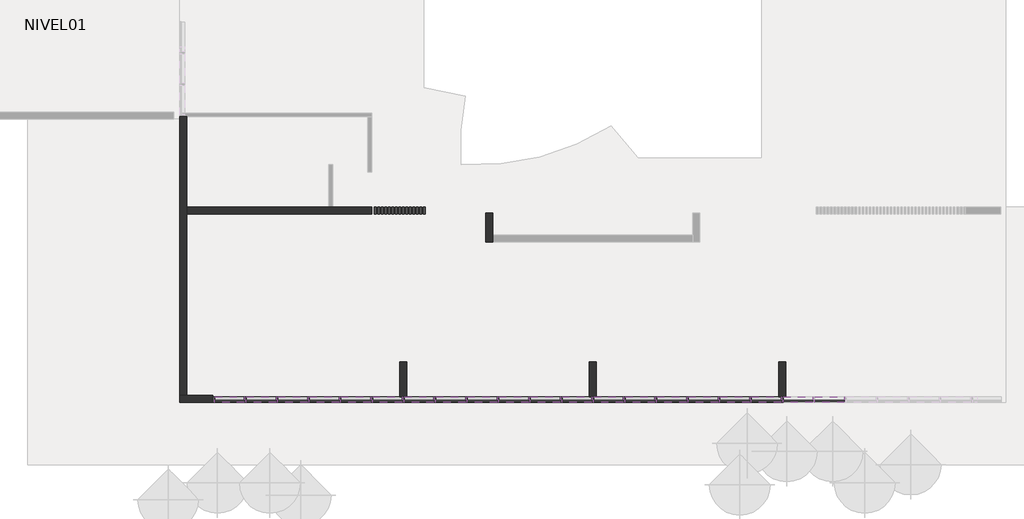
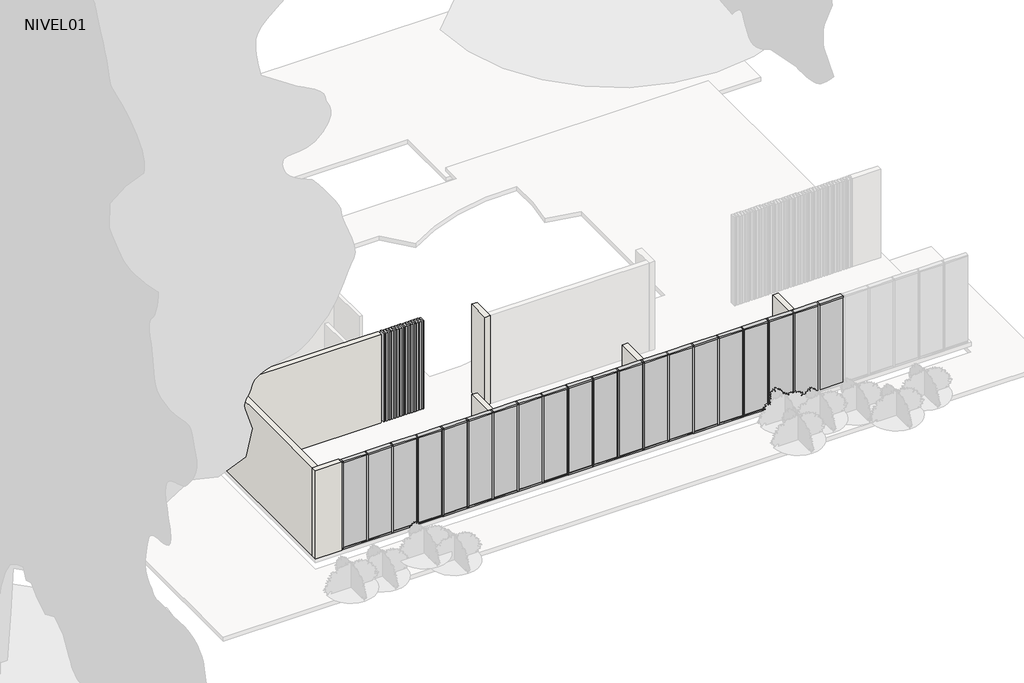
# One storey, part 1 of 4: 73 members, 20 plates, 7 walls.
"""IFC4 building model written with IfcOpenShell, lengths in millimetres."""

from ifc_helpers import new_model, si_unit, frame, origin, place, context, project, spatial, polyline, outline, extrude, faceted_brep, transform, mapped, element, save
from components import rectangular_mullion_50_x_150mm_aa6e6970, rectangular_mullion_50_x_150mm_f2553ced, rectangular_mullion_50_x_150mm_324a6438, rectangular_mullion_madera_50_x_200mm_c4610814, system_panel_glazed_22d07e78

model = new_model("IFC4")

# Units and contexts
model_context = context("Model", 3, world=origin())
ifc_project = project(units=[si_unit("LENGTHUNIT", "METRE", prefix="MILLI")], contexts=[model_context])

# Site, building, storey
site = spatial("IfcSite", under=ifc_project)
building = spatial("IfcBuilding", under=site)
storey = spatial("IfcBuildingStorey", under=building, Name="NIVEL01", Elevation=-1000.0)

# Members
placement = place(None, origin())
rectangular_mullion_50_x_150mm_shape = rectangular_mullion_50_x_150mm_aa6e6970(model_context)
element("IfcMember", 1, ObjectType="Rectangular Mullion : 50 x 150mm", at=placement, inside=storey, context=model_context, shape_type="MappedRepresentation", body=[
    mapped(rectangular_mullion_50_x_150mm_shape, transform((-1783.5934752, -5665.5860763, -1000.0), x_axis=(-1.0, 0.0, 0.0), y_axis=(0.0, 1.0, 0.0), z_axis=(0.0, 0.0, -1.0))),
])
element("IfcMember", 2, ObjectType="Rectangular Mullion : 50 x 150mm", at=placement, inside=storey, context=model_context, shape_type="MappedRepresentation", body=[
    mapped(rectangular_mullion_50_x_150mm_shape, transform((-2683.5934752, -5665.5860763, -1000.0), x_axis=(-1.0, 0.0, 0.0), y_axis=(0.0, 1.0, 0.0), z_axis=(0.0, 0.0, -1.0))),
])
element("IfcMember", 3, ObjectType="Rectangular Mullion : 50 x 150mm", at=placement, inside=storey, context=model_context, shape_type="MappedRepresentation", body=[
    mapped(rectangular_mullion_50_x_150mm_shape, transform((-3583.5934752, -5665.5860763, -1000.0), x_axis=(-1.0, 0.0, 0.0), y_axis=(0.0, 1.0, 0.0), z_axis=(0.0, 0.0, -1.0))),
])
element("IfcMember", 4, ObjectType="Rectangular Mullion : 50 x 150mm", at=placement, inside=storey, context=model_context, shape_type="MappedRepresentation", body=[
    mapped(rectangular_mullion_50_x_150mm_shape, transform((-4483.5934752, -5665.5860763, -1000.0), x_axis=(-1.0, 0.0, 0.0), y_axis=(0.0, 1.0, 0.0), z_axis=(0.0, 0.0, -1.0))),
])
element("IfcMember", 5, ObjectType="Rectangular Mullion : 50 x 150mm", at=placement, inside=storey, context=model_context, shape_type="MappedRepresentation", body=[
    mapped(rectangular_mullion_50_x_150mm_shape, transform((-5383.5934752, -5665.5860763, -1000.0), x_axis=(-1.0, 0.0, 0.0), y_axis=(0.0, 1.0, 0.0), z_axis=(0.0, 0.0, -1.0))),
])
element("IfcMember", 6, ObjectType="Rectangular Mullion : 50 x 150mm", at=placement, inside=storey, context=model_context, shape_type="MappedRepresentation", body=[
    mapped(rectangular_mullion_50_x_150mm_shape, transform((-6283.5934752, -5665.5860763, -1000.0), x_axis=(-1.0, 0.0, 0.0), y_axis=(0.0, 1.0, 0.0), z_axis=(0.0, 0.0, -1.0))),
])
element("IfcMember", 7, ObjectType="Rectangular Mullion : 50 x 150mm", at=placement, inside=storey, context=model_context, shape_type="MappedRepresentation", body=[
    mapped(rectangular_mullion_50_x_150mm_shape, transform((-7183.5934752, -5665.5860763, -1000.0), x_axis=(-1.0, 0.0, 0.0), y_axis=(0.0, 1.0, 0.0), z_axis=(0.0, 0.0, -1.0))),
])
element("IfcMember", 8, ObjectType="Rectangular Mullion : 50 x 150mm", at=placement, inside=storey, context=model_context, shape_type="MappedRepresentation", body=[
    mapped(rectangular_mullion_50_x_150mm_shape, transform((-8083.5934752, -5665.5860763, -1000.0), x_axis=(-1.0, 0.0, 0.0), y_axis=(0.0, 1.0, 0.0), z_axis=(0.0, 0.0, -1.0))),
])
element("IfcMember", 9, ObjectType="Rectangular Mullion : 50 x 150mm", at=placement, inside=storey, context=model_context, shape_type="MappedRepresentation", body=[
    mapped(rectangular_mullion_50_x_150mm_shape, transform((-8983.5934752, -5665.5860763, -1000.0), x_axis=(-1.0, 0.0, 0.0), y_axis=(0.0, 1.0, 0.0), z_axis=(0.0, 0.0, -1.0))),
])
element("IfcMember", 10, ObjectType="Rectangular Mullion : 50 x 150mm", at=placement, inside=storey, context=model_context, shape_type="MappedRepresentation", body=[
    mapped(rectangular_mullion_50_x_150mm_shape, transform((-9883.5934752, -5665.5860763, -1000.0), x_axis=(-1.0, 0.0, 0.0), y_axis=(0.0, 1.0, 0.0), z_axis=(0.0, 0.0, -1.0))),
])
element("IfcMember", 11, ObjectType="Rectangular Mullion : 50 x 150mm", at=placement, inside=storey, context=model_context, shape_type="MappedRepresentation", body=[
    mapped(rectangular_mullion_50_x_150mm_shape, transform((-10783.5934752, -5665.5860763, -1000.0), x_axis=(-1.0, 0.0, 0.0), y_axis=(0.0, 1.0, 0.0), z_axis=(0.0, 0.0, -1.0))),
])
element("IfcMember", 12, ObjectType="Rectangular Mullion : 50 x 150mm", at=placement, inside=storey, context=model_context, shape_type="MappedRepresentation", body=[
    mapped(rectangular_mullion_50_x_150mm_shape, transform((-11683.5934752, -5665.5860763, -1000.0), x_axis=(-1.0, 0.0, 0.0), y_axis=(0.0, 1.0, 0.0), z_axis=(0.0, 0.0, -1.0))),
])
element("IfcMember", 13, ObjectType="Rectangular Mullion : 50 x 150mm", at=placement, inside=storey, context=model_context, shape_type="MappedRepresentation", body=[
    mapped(rectangular_mullion_50_x_150mm_shape, transform((-12583.5934752, -5665.5860763, -1000.0), x_axis=(-1.0, 0.0, 0.0), y_axis=(0.0, 1.0, 0.0), z_axis=(0.0, 0.0, -1.0))),
])
element("IfcMember", 14, ObjectType="Rectangular Mullion : 50 x 150mm", at=placement, inside=storey, context=model_context, shape_type="MappedRepresentation", body=[
    mapped(rectangular_mullion_50_x_150mm_shape, transform((-13483.5934752, -5665.5860763, -1000.0), x_axis=(-1.0, 0.0, 0.0), y_axis=(0.0, 1.0, 0.0), z_axis=(0.0, 0.0, -1.0))),
])
element("IfcMember", 15, ObjectType="Rectangular Mullion : 50 x 150mm", at=placement, inside=storey, context=model_context, shape_type="MappedRepresentation", body=[
    mapped(rectangular_mullion_50_x_150mm_shape, transform((-14383.5934752, -5665.5860763, -1000.0), x_axis=(-1.0, 0.0, 0.0), y_axis=(0.0, 1.0, 0.0), z_axis=(0.0, 0.0, -1.0))),
])
element("IfcMember", 16, ObjectType="Rectangular Mullion : 50 x 150mm", at=placement, inside=storey, context=model_context, shape_type="MappedRepresentation", body=[
    mapped(rectangular_mullion_50_x_150mm_shape, transform((-15283.5934752, -5665.5860763, -1000.0), x_axis=(-1.0, 0.0, 0.0), y_axis=(0.0, 1.0, 0.0), z_axis=(0.0, 0.0, -1.0))),
])
element("IfcMember", 17, ObjectType="Rectangular Mullion : 50 x 150mm", at=placement, inside=storey, context=model_context, shape_type="MappedRepresentation", body=[
    mapped(rectangular_mullion_50_x_150mm_shape, transform((-16183.5934752, -5665.5860763, -1000.0), x_axis=(-1.0, 0.0, 0.0), y_axis=(0.0, 1.0, 0.0), z_axis=(0.0, 0.0, -1.0))),
])
element("IfcMember", 18, ObjectType="Rectangular Mullion : 50 x 150mm", at=placement, inside=storey, context=model_context, shape_type="MappedRepresentation", body=[
    mapped(rectangular_mullion_50_x_150mm_shape, transform((-17083.5934752, -5665.5860763, -1000.0), x_axis=(-1.0, 0.0, 0.0), y_axis=(0.0, 1.0, 0.0), z_axis=(0.0, 0.0, -1.0))),
])
element("IfcMember", 19, ObjectType="Rectangular Mullion : 50 x 150mm", at=placement, inside=storey, context=model_context, shape_type="MappedRepresentation", body=[
    mapped(rectangular_mullion_50_x_150mm_shape, transform((-17983.5934752, -5665.5860763, -1000.0), x_axis=(-1.0, 0.0, 0.0), y_axis=(0.0, 1.0, 0.0), z_axis=(0.0, 0.0, -1.0))),
])
rectangular_mullion_50_x_150mm_2_shape = rectangular_mullion_50_x_150mm_f2553ced(model_context)
element("IfcMember", 20, ObjectType="Rectangular Mullion : 50 x 150mm", at=placement, inside=storey, context=model_context, shape_type="MappedRepresentation", body=[
    mapped(rectangular_mullion_50_x_150mm_2_shape, transform((-18008.5934748, -5665.5860763, -1000.0), x_axis=(-1.0, 0.0, 0.0), y_axis=(0.0, 1.0, 0.0), z_axis=(0.0, 0.0, -1.0))),
])
rectangular_mullion_50_x_150mm_3_shape = rectangular_mullion_50_x_150mm_324a6438(model_context)
element("IfcMember", 21, ObjectType="Rectangular Mullion : 50 x 150mm", at=placement, inside=storey, context=model_context, shape_type="MappedRepresentation", body=[
    mapped(rectangular_mullion_50_x_150mm_3_shape, transform((-858.5934752, -5665.5860763, 2330.0), x_axis=(0.0, 0.0, 1.0), y_axis=(0.0, 1.0, 0.0), z_axis=(-1.0, 0.0, 0.0))),
])
element("IfcMember", 22, ObjectType="Rectangular Mullion : 50 x 150mm", at=placement, inside=storey, context=model_context, shape_type="MappedRepresentation", body=[
    mapped(rectangular_mullion_50_x_150mm_3_shape, transform((-1758.5934752, -5665.5860763, 2330.0), x_axis=(0.0, 0.0, 1.0), y_axis=(0.0, 1.0, 0.0), z_axis=(-1.0, 0.0, 0.0))),
])
element("IfcMember", 23, ObjectType="Rectangular Mullion : 50 x 150mm", at=placement, inside=storey, context=model_context, shape_type="MappedRepresentation", body=[
    mapped(rectangular_mullion_50_x_150mm_3_shape, transform((-2658.5934752, -5665.5860763, 2330.0), x_axis=(0.0, 0.0, 1.0), y_axis=(0.0, 1.0, 0.0), z_axis=(-1.0, 0.0, 0.0))),
])
element("IfcMember", 24, ObjectType="Rectangular Mullion : 50 x 150mm", at=placement, inside=storey, context=model_context, shape_type="MappedRepresentation", body=[
    mapped(rectangular_mullion_50_x_150mm_3_shape, transform((-3558.5934752, -5665.5860763, 2330.0), x_axis=(0.0, 0.0, 1.0), y_axis=(0.0, 1.0, 0.0), z_axis=(-1.0, 0.0, 0.0))),
])
element("IfcMember", 25, ObjectType="Rectangular Mullion : 50 x 150mm", at=placement, inside=storey, context=model_context, shape_type="MappedRepresentation", body=[
    mapped(rectangular_mullion_50_x_150mm_3_shape, transform((-4458.5934752, -5665.5860763, 2330.0), x_axis=(0.0, 0.0, 1.0), y_axis=(0.0, 1.0, 0.0), z_axis=(-1.0, 0.0, 0.0))),
])
element("IfcMember", 26, ObjectType="Rectangular Mullion : 50 x 150mm", at=placement, inside=storey, context=model_context, shape_type="MappedRepresentation", body=[
    mapped(rectangular_mullion_50_x_150mm_3_shape, transform((-5358.5934752, -5665.5860763, 2330.0), x_axis=(0.0, 0.0, 1.0), y_axis=(0.0, 1.0, 0.0), z_axis=(-1.0, 0.0, 0.0))),
])
element("IfcMember", 27, ObjectType="Rectangular Mullion : 50 x 150mm", at=placement, inside=storey, context=model_context, shape_type="MappedRepresentation", body=[
    mapped(rectangular_mullion_50_x_150mm_3_shape, transform((-6258.5934752, -5665.5860763, 2330.0), x_axis=(0.0, 0.0, 1.0), y_axis=(0.0, 1.0, 0.0), z_axis=(-1.0, 0.0, 0.0))),
])
element("IfcMember", 28, ObjectType="Rectangular Mullion : 50 x 150mm", at=placement, inside=storey, context=model_context, shape_type="MappedRepresentation", body=[
    mapped(rectangular_mullion_50_x_150mm_3_shape, transform((-7158.5934752, -5665.5860763, 2330.0), x_axis=(0.0, 0.0, 1.0), y_axis=(0.0, 1.0, 0.0), z_axis=(-1.0, 0.0, 0.0))),
])
element("IfcMember", 29, ObjectType="Rectangular Mullion : 50 x 150mm", at=placement, inside=storey, context=model_context, shape_type="MappedRepresentation", body=[
    mapped(rectangular_mullion_50_x_150mm_3_shape, transform((-8058.5934752, -5665.5860763, 2330.0), x_axis=(0.0, 0.0, 1.0), y_axis=(0.0, 1.0, 0.0), z_axis=(-1.0, 0.0, 0.0))),
])
element("IfcMember", 30, ObjectType="Rectangular Mullion : 50 x 150mm", at=placement, inside=storey, context=model_context, shape_type="MappedRepresentation", body=[
    mapped(rectangular_mullion_50_x_150mm_3_shape, transform((-8958.5934752, -5665.5860763, 2330.0), x_axis=(0.0, 0.0, 1.0), y_axis=(0.0, 1.0, 0.0), z_axis=(-1.0, 0.0, 0.0))),
])
element("IfcMember", 31, ObjectType="Rectangular Mullion : 50 x 150mm", at=placement, inside=storey, context=model_context, shape_type="MappedRepresentation", body=[
    mapped(rectangular_mullion_50_x_150mm_3_shape, transform((-9858.5934752, -5665.5860763, 2330.0), x_axis=(0.0, 0.0, 1.0), y_axis=(0.0, 1.0, 0.0), z_axis=(-1.0, 0.0, 0.0))),
])
element("IfcMember", 32, ObjectType="Rectangular Mullion : 50 x 150mm", at=placement, inside=storey, context=model_context, shape_type="MappedRepresentation", body=[
    mapped(rectangular_mullion_50_x_150mm_3_shape, transform((-10758.5934752, -5665.5860763, 2330.0), x_axis=(0.0, 0.0, 1.0), y_axis=(0.0, 1.0, 0.0), z_axis=(-1.0, 0.0, 0.0))),
])
element("IfcMember", 33, ObjectType="Rectangular Mullion : 50 x 150mm", at=placement, inside=storey, context=model_context, shape_type="MappedRepresentation", body=[
    mapped(rectangular_mullion_50_x_150mm_3_shape, transform((-11658.5934752, -5665.5860763, 2330.0), x_axis=(0.0, 0.0, 1.0), y_axis=(0.0, 1.0, 0.0), z_axis=(-1.0, 0.0, 0.0))),
])
element("IfcMember", 34, ObjectType="Rectangular Mullion : 50 x 150mm", at=placement, inside=storey, context=model_context, shape_type="MappedRepresentation", body=[
    mapped(rectangular_mullion_50_x_150mm_3_shape, transform((-12558.5934752, -5665.5860763, 2330.0), x_axis=(0.0, 0.0, 1.0), y_axis=(0.0, 1.0, 0.0), z_axis=(-1.0, 0.0, 0.0))),
])
element("IfcMember", 35, ObjectType="Rectangular Mullion : 50 x 150mm", at=placement, inside=storey, context=model_context, shape_type="MappedRepresentation", body=[
    mapped(rectangular_mullion_50_x_150mm_3_shape, transform((-13458.5934752, -5665.5860763, 2330.0), x_axis=(0.0, 0.0, 1.0), y_axis=(0.0, 1.0, 0.0), z_axis=(-1.0, 0.0, 0.0))),
])
element("IfcMember", 36, ObjectType="Rectangular Mullion : 50 x 150mm", at=placement, inside=storey, context=model_context, shape_type="MappedRepresentation", body=[
    mapped(rectangular_mullion_50_x_150mm_3_shape, transform((-14358.5934752, -5665.5860763, 2330.0), x_axis=(0.0, 0.0, 1.0), y_axis=(0.0, 1.0, 0.0), z_axis=(-1.0, 0.0, 0.0))),
])
element("IfcMember", 37, ObjectType="Rectangular Mullion : 50 x 150mm", at=placement, inside=storey, context=model_context, shape_type="MappedRepresentation", body=[
    mapped(rectangular_mullion_50_x_150mm_3_shape, transform((-15258.5934752, -5665.5860763, 2330.0), x_axis=(0.0, 0.0, 1.0), y_axis=(0.0, 1.0, 0.0), z_axis=(-1.0, 0.0, 0.0))),
])
element("IfcMember", 38, ObjectType="Rectangular Mullion : 50 x 150mm", at=placement, inside=storey, context=model_context, shape_type="MappedRepresentation", body=[
    mapped(rectangular_mullion_50_x_150mm_3_shape, transform((-16158.5934752, -5665.5860763, 2330.0), x_axis=(0.0, 0.0, 1.0), y_axis=(0.0, 1.0, 0.0), z_axis=(-1.0, 0.0, 0.0))),
])
element("IfcMember", 39, ObjectType="Rectangular Mullion : 50 x 150mm", at=placement, inside=storey, context=model_context, shape_type="MappedRepresentation", body=[
    mapped(rectangular_mullion_50_x_150mm_3_shape, transform((-17058.5934752, -5665.5860763, 2330.0), x_axis=(0.0, 0.0, 1.0), y_axis=(0.0, 1.0, 0.0), z_axis=(-1.0, 0.0, 0.0))),
])
element("IfcMember", 40, ObjectType="Rectangular Mullion : 50 x 150mm", at=placement, inside=storey, context=model_context, shape_type="MappedRepresentation", body=[
    mapped(rectangular_mullion_50_x_150mm_3_shape, transform((-17958.5934752, -5665.5860763, 2330.0), x_axis=(0.0, 0.0, 1.0), y_axis=(0.0, 1.0, 0.0), z_axis=(-1.0, 0.0, 0.0))),
])
element("IfcMember", 41, ObjectType="Rectangular Mullion : 50 x 150mm", at=placement, inside=storey, context=model_context, shape_type="MappedRepresentation", body=[
    mapped(rectangular_mullion_50_x_150mm_3_shape, transform((-1808.5934752, -5665.5860763, -1000.0), x_axis=(0.0, 0.0, -1.0), y_axis=(0.0, 1.0, 0.0), z_axis=(1.0, 0.0, 0.0))),
])
element("IfcMember", 42, ObjectType="Rectangular Mullion : 50 x 150mm", at=placement, inside=storey, context=model_context, shape_type="MappedRepresentation", body=[
    mapped(rectangular_mullion_50_x_150mm_3_shape, transform((-2708.5934752, -5665.5860763, -1000.0), x_axis=(0.0, 0.0, -1.0), y_axis=(0.0, 1.0, 0.0), z_axis=(1.0, 0.0, 0.0))),
])
element("IfcMember", 43, ObjectType="Rectangular Mullion : 50 x 150mm", at=placement, inside=storey, context=model_context, shape_type="MappedRepresentation", body=[
    mapped(rectangular_mullion_50_x_150mm_3_shape, transform((-3608.5934752, -5665.5860763, -1000.0), x_axis=(0.0, 0.0, -1.0), y_axis=(0.0, 1.0, 0.0), z_axis=(1.0, 0.0, 0.0))),
])
element("IfcMember", 44, ObjectType="Rectangular Mullion : 50 x 150mm", at=placement, inside=storey, context=model_context, shape_type="MappedRepresentation", body=[
    mapped(rectangular_mullion_50_x_150mm_3_shape, transform((-4508.5934752, -5665.5860763, -1000.0), x_axis=(0.0, 0.0, -1.0), y_axis=(0.0, 1.0, 0.0), z_axis=(1.0, 0.0, 0.0))),
])
element("IfcMember", 45, ObjectType="Rectangular Mullion : 50 x 150mm", at=placement, inside=storey, context=model_context, shape_type="MappedRepresentation", body=[
    mapped(rectangular_mullion_50_x_150mm_3_shape, transform((-5408.5934752, -5665.5860763, -1000.0), x_axis=(0.0, 0.0, -1.0), y_axis=(0.0, 1.0, 0.0), z_axis=(1.0, 0.0, 0.0))),
])
element("IfcMember", 46, ObjectType="Rectangular Mullion : 50 x 150mm", at=placement, inside=storey, context=model_context, shape_type="MappedRepresentation", body=[
    mapped(rectangular_mullion_50_x_150mm_3_shape, transform((-6308.5934752, -5665.5860763, -1000.0), x_axis=(0.0, 0.0, -1.0), y_axis=(0.0, 1.0, 0.0), z_axis=(1.0, 0.0, 0.0))),
])
element("IfcMember", 47, ObjectType="Rectangular Mullion : 50 x 150mm", at=placement, inside=storey, context=model_context, shape_type="MappedRepresentation", body=[
    mapped(rectangular_mullion_50_x_150mm_3_shape, transform((-7208.5934752, -5665.5860763, -1000.0), x_axis=(0.0, 0.0, -1.0), y_axis=(0.0, 1.0, 0.0), z_axis=(1.0, 0.0, 0.0))),
])
element("IfcMember", 48, ObjectType="Rectangular Mullion : 50 x 150mm", at=placement, inside=storey, context=model_context, shape_type="MappedRepresentation", body=[
    mapped(rectangular_mullion_50_x_150mm_3_shape, transform((-8108.5934752, -5665.5860763, -1000.0), x_axis=(0.0, 0.0, -1.0), y_axis=(0.0, 1.0, 0.0), z_axis=(1.0, 0.0, 0.0))),
])
element("IfcMember", 49, ObjectType="Rectangular Mullion : 50 x 150mm", at=placement, inside=storey, context=model_context, shape_type="MappedRepresentation", body=[
    mapped(rectangular_mullion_50_x_150mm_3_shape, transform((-9008.5934752, -5665.5860763, -1000.0), x_axis=(0.0, 0.0, -1.0), y_axis=(0.0, 1.0, 0.0), z_axis=(1.0, 0.0, 0.0))),
])
element("IfcMember", 50, ObjectType="Rectangular Mullion : 50 x 150mm", at=placement, inside=storey, context=model_context, shape_type="MappedRepresentation", body=[
    mapped(rectangular_mullion_50_x_150mm_3_shape, transform((-9908.5934752, -5665.5860763, -1000.0), x_axis=(0.0, 0.0, -1.0), y_axis=(0.0, 1.0, 0.0), z_axis=(1.0, 0.0, 0.0))),
])
element("IfcMember", 51, ObjectType="Rectangular Mullion : 50 x 150mm", at=placement, inside=storey, context=model_context, shape_type="MappedRepresentation", body=[
    mapped(rectangular_mullion_50_x_150mm_3_shape, transform((-10808.5934752, -5665.5860763, -1000.0), x_axis=(0.0, 0.0, -1.0), y_axis=(0.0, 1.0, 0.0), z_axis=(1.0, 0.0, 0.0))),
])
element("IfcMember", 52, ObjectType="Rectangular Mullion : 50 x 150mm", at=placement, inside=storey, context=model_context, shape_type="MappedRepresentation", body=[
    mapped(rectangular_mullion_50_x_150mm_3_shape, transform((-11708.5934752, -5665.5860763, -1000.0), x_axis=(0.0, 0.0, -1.0), y_axis=(0.0, 1.0, 0.0), z_axis=(1.0, 0.0, 0.0))),
])
element("IfcMember", 53, ObjectType="Rectangular Mullion : 50 x 150mm", at=placement, inside=storey, context=model_context, shape_type="MappedRepresentation", body=[
    mapped(rectangular_mullion_50_x_150mm_3_shape, transform((-12608.5934752, -5665.5860763, -1000.0), x_axis=(0.0, 0.0, -1.0), y_axis=(0.0, 1.0, 0.0), z_axis=(1.0, 0.0, 0.0))),
])
element("IfcMember", 54, ObjectType="Rectangular Mullion : 50 x 150mm", at=placement, inside=storey, context=model_context, shape_type="MappedRepresentation", body=[
    mapped(rectangular_mullion_50_x_150mm_3_shape, transform((-13508.5934752, -5665.5860763, -1000.0), x_axis=(0.0, 0.0, -1.0), y_axis=(0.0, 1.0, 0.0), z_axis=(1.0, 0.0, 0.0))),
])
element("IfcMember", 55, ObjectType="Rectangular Mullion : 50 x 150mm", at=placement, inside=storey, context=model_context, shape_type="MappedRepresentation", body=[
    mapped(rectangular_mullion_50_x_150mm_3_shape, transform((-14408.5934752, -5665.5860763, -1000.0), x_axis=(0.0, 0.0, -1.0), y_axis=(0.0, 1.0, 0.0), z_axis=(1.0, 0.0, 0.0))),
])
element("IfcMember", 56, ObjectType="Rectangular Mullion : 50 x 150mm", at=placement, inside=storey, context=model_context, shape_type="MappedRepresentation", body=[
    mapped(rectangular_mullion_50_x_150mm_3_shape, transform((-15308.5934752, -5665.5860763, -1000.0), x_axis=(0.0, 0.0, -1.0), y_axis=(0.0, 1.0, 0.0), z_axis=(1.0, 0.0, 0.0))),
])
element("IfcMember", 57, ObjectType="Rectangular Mullion : 50 x 150mm", at=placement, inside=storey, context=model_context, shape_type="MappedRepresentation", body=[
    mapped(rectangular_mullion_50_x_150mm_3_shape, transform((-16208.5934752, -5665.5860763, -1000.0), x_axis=(0.0, 0.0, -1.0), y_axis=(0.0, 1.0, 0.0), z_axis=(1.0, 0.0, 0.0))),
])
element("IfcMember", 58, ObjectType="Rectangular Mullion : 50 x 150mm", at=placement, inside=storey, context=model_context, shape_type="MappedRepresentation", body=[
    mapped(rectangular_mullion_50_x_150mm_3_shape, transform((-17108.5934752, -5665.5860763, -1000.0), x_axis=(0.0, 0.0, -1.0), y_axis=(0.0, 1.0, 0.0), z_axis=(1.0, 0.0, 0.0))),
])
rectangular_mullion_madera_50_x_200mm_shape = rectangular_mullion_madera_50_x_200mm_c4610814(model_context)
element("IfcMember", 59, ObjectType="Rectangular Mullion : MADERA 50 x 200mm", at=placement, inside=storey, context=model_context, shape_type="MappedRepresentation", body=[
    mapped(rectangular_mullion_madera_50_x_200mm_shape, transform((-13383.5934745, -266.0860759, -1020.0), x_axis=(1.0, 0.0, 0.0), y_axis=(0.0, -1.0, 0.0), z_axis=(0.0, 0.0, -1.0))),
])
element("IfcMember", 60, ObjectType="Rectangular Mullion : MADERA 50 x 200mm", at=placement, inside=storey, context=model_context, shape_type="MappedRepresentation", body=[
    mapped(rectangular_mullion_madera_50_x_200mm_shape, transform((-13283.5934745, -266.0860759, -1020.0), x_axis=(1.0, 0.0, 0.0), y_axis=(0.0, -1.0, 0.0), z_axis=(0.0, 0.0, -1.0))),
])
element("IfcMember", 61, ObjectType="Rectangular Mullion : MADERA 50 x 200mm", at=placement, inside=storey, context=model_context, shape_type="MappedRepresentation", body=[
    mapped(rectangular_mullion_madera_50_x_200mm_shape, transform((-13183.5934745, -266.0860759, -1020.0), x_axis=(1.0, 0.0, 0.0), y_axis=(0.0, -1.0, 0.0), z_axis=(0.0, 0.0, -1.0))),
])
element("IfcMember", 62, ObjectType="Rectangular Mullion : MADERA 50 x 200mm", at=placement, inside=storey, context=model_context, shape_type="MappedRepresentation", body=[
    mapped(rectangular_mullion_madera_50_x_200mm_shape, transform((-13083.5934745, -266.0860759, -1020.0), x_axis=(1.0, 0.0, 0.0), y_axis=(0.0, -1.0, 0.0), z_axis=(0.0, 0.0, -1.0))),
])
element("IfcMember", 63, ObjectType="Rectangular Mullion : MADERA 50 x 200mm", at=placement, inside=storey, context=model_context, shape_type="MappedRepresentation", body=[
    mapped(rectangular_mullion_madera_50_x_200mm_shape, transform((-12983.5934745, -266.0860759, -1020.0), x_axis=(1.0, 0.0, 0.0), y_axis=(0.0, -1.0, 0.0), z_axis=(0.0, 0.0, -1.0))),
])
element("IfcMember", 64, ObjectType="Rectangular Mullion : MADERA 50 x 200mm", at=placement, inside=storey, context=model_context, shape_type="MappedRepresentation", body=[
    mapped(rectangular_mullion_madera_50_x_200mm_shape, transform((-12883.5934745, -266.0860759, -1020.0), x_axis=(1.0, 0.0, 0.0), y_axis=(0.0, -1.0, 0.0), z_axis=(0.0, 0.0, -1.0))),
])
element("IfcMember", 65, ObjectType="Rectangular Mullion : MADERA 50 x 200mm", at=placement, inside=storey, context=model_context, shape_type="MappedRepresentation", body=[
    mapped(rectangular_mullion_madera_50_x_200mm_shape, transform((-12783.5934745, -266.0860759, -1020.0), x_axis=(1.0, 0.0, 0.0), y_axis=(0.0, -1.0, 0.0), z_axis=(0.0, 0.0, -1.0))),
])
element("IfcMember", 66, ObjectType="Rectangular Mullion : MADERA 50 x 200mm", at=placement, inside=storey, context=model_context, shape_type="MappedRepresentation", body=[
    mapped(rectangular_mullion_madera_50_x_200mm_shape, transform((-12683.5934745, -266.0860759, -1020.0), x_axis=(1.0, 0.0, 0.0), y_axis=(0.0, -1.0, 0.0), z_axis=(0.0, 0.0, -1.0))),
])
element("IfcMember", 67, ObjectType="Rectangular Mullion : MADERA 50 x 200mm", at=placement, inside=storey, context=model_context, shape_type="MappedRepresentation", body=[
    mapped(rectangular_mullion_madera_50_x_200mm_shape, transform((-12583.5934745, -266.0860759, -1020.0), x_axis=(1.0, 0.0, 0.0), y_axis=(0.0, -1.0, 0.0), z_axis=(0.0, 0.0, -1.0))),
])
element("IfcMember", 68, ObjectType="Rectangular Mullion : MADERA 50 x 200mm", at=placement, inside=storey, context=model_context, shape_type="MappedRepresentation", body=[
    mapped(rectangular_mullion_madera_50_x_200mm_shape, transform((-12483.5934745, -266.0860759, -1020.0), x_axis=(1.0, 0.0, 0.0), y_axis=(0.0, -1.0, 0.0), z_axis=(0.0, 0.0, -1.0))),
])
element("IfcMember", 69, ObjectType="Rectangular Mullion : MADERA 50 x 200mm", at=placement, inside=storey, context=model_context, shape_type="MappedRepresentation", body=[
    mapped(rectangular_mullion_madera_50_x_200mm_shape, transform((-12383.5934745, -266.0860759, -1020.0), x_axis=(1.0, 0.0, 0.0), y_axis=(0.0, -1.0, 0.0), z_axis=(0.0, 0.0, -1.0))),
])
element("IfcMember", 70, ObjectType="Rectangular Mullion : MADERA 50 x 200mm", at=placement, inside=storey, context=model_context, shape_type="MappedRepresentation", body=[
    mapped(rectangular_mullion_madera_50_x_200mm_shape, transform((-12283.5934745, -266.0860759, -1020.0), x_axis=(1.0, 0.0, 0.0), y_axis=(0.0, -1.0, 0.0), z_axis=(0.0, 0.0, -1.0))),
])
element("IfcMember", 71, ObjectType="Rectangular Mullion : MADERA 50 x 200mm", at=placement, inside=storey, context=model_context, shape_type="MappedRepresentation", body=[
    mapped(rectangular_mullion_madera_50_x_200mm_shape, transform((-12183.5934745, -266.0860759, -1020.0), x_axis=(1.0, 0.0, 0.0), y_axis=(0.0, -1.0, 0.0), z_axis=(0.0, 0.0, -1.0))),
])
element("IfcMember", 72, ObjectType="Rectangular Mullion : MADERA 50 x 200mm", at=placement, inside=storey, context=model_context, shape_type="MappedRepresentation", body=[
    mapped(rectangular_mullion_madera_50_x_200mm_shape, transform((-12083.5934745, -266.0860759, -1020.0), x_axis=(1.0, 0.0, 0.0), y_axis=(0.0, -1.0, 0.0), z_axis=(0.0, 0.0, -1.0))),
])
element("IfcMember", 73, ObjectType="Rectangular Mullion : MADERA 50 x 200mm", at=placement, inside=storey, context=model_context, shape_type="MappedRepresentation", body=[
    mapped(rectangular_mullion_madera_50_x_200mm_shape, transform((-11983.5934745, -266.0860759, -1020.0), x_axis=(1.0, 0.0, 0.0), y_axis=(0.0, -1.0, 0.0), z_axis=(0.0, 0.0, -1.0))),
])

# Plates
system_panel_glazed_shape = system_panel_glazed_22d07e78(model_context)
element("IfcPlate", 74, ObjectType="System Panel : Glazed", at=placement, inside=storey, context=model_context, shape_type="MappedRepresentation", body=[
    mapped(system_panel_glazed_shape, transform((-433.5934752, -5665.5860763, -950.0), x_axis=(-1.0, 0.0, 0.0), y_axis=(0.0, -1.0, 0.0), z_axis=(0.0, 0.0, 1.0))),
])
element("IfcPlate", 75, ObjectType="System Panel : Glazed", at=placement, inside=storey, context=model_context, shape_type="MappedRepresentation", body=[
    mapped(system_panel_glazed_shape, transform((-1333.5934752, -5665.5860763, -950.0), x_axis=(-1.0, 0.0, 0.0), y_axis=(0.0, -1.0, 0.0), z_axis=(0.0, 0.0, 1.0))),
])
element("IfcPlate", 76, ObjectType="System Panel : Glazed", at=placement, inside=storey, context=model_context, shape_type="MappedRepresentation", body=[
    mapped(system_panel_glazed_shape, transform((-2233.5934752, -5665.5860763, -950.0), x_axis=(-1.0, 0.0, 0.0), y_axis=(0.0, -1.0, 0.0), z_axis=(0.0, 0.0, 1.0))),
])
element("IfcPlate", 77, ObjectType="System Panel : Glazed", at=placement, inside=storey, context=model_context, shape_type="MappedRepresentation", body=[
    mapped(system_panel_glazed_shape, transform((-3133.5934752, -5665.5860763, -950.0), x_axis=(-1.0, 0.0, 0.0), y_axis=(0.0, -1.0, 0.0), z_axis=(0.0, 0.0, 1.0))),
])
element("IfcPlate", 78, ObjectType="System Panel : Glazed", at=placement, inside=storey, context=model_context, shape_type="MappedRepresentation", body=[
    mapped(system_panel_glazed_shape, transform((-4033.5934752, -5665.5860763, -950.0), x_axis=(-1.0, 0.0, 0.0), y_axis=(0.0, -1.0, 0.0), z_axis=(0.0, 0.0, 1.0))),
])
element("IfcPlate", 79, ObjectType="System Panel : Glazed", at=placement, inside=storey, context=model_context, shape_type="MappedRepresentation", body=[
    mapped(system_panel_glazed_shape, transform((-4933.5934752, -5665.5860763, -950.0), x_axis=(-1.0, 0.0, 0.0), y_axis=(0.0, -1.0, 0.0), z_axis=(0.0, 0.0, 1.0))),
])
element("IfcPlate", 80, ObjectType="System Panel : Glazed", at=placement, inside=storey, context=model_context, shape_type="MappedRepresentation", body=[
    mapped(system_panel_glazed_shape, transform((-5833.5934752, -5665.5860763, -950.0), x_axis=(-1.0, 0.0, 0.0), y_axis=(0.0, -1.0, 0.0), z_axis=(0.0, 0.0, 1.0))),
])
element("IfcPlate", 81, ObjectType="System Panel : Glazed", at=placement, inside=storey, context=model_context, shape_type="MappedRepresentation", body=[
    mapped(system_panel_glazed_shape, transform((-6733.5934752, -5665.5860763, -950.0), x_axis=(-1.0, 0.0, 0.0), y_axis=(0.0, -1.0, 0.0), z_axis=(0.0, 0.0, 1.0))),
])
element("IfcPlate", 82, ObjectType="System Panel : Glazed", at=placement, inside=storey, context=model_context, shape_type="MappedRepresentation", body=[
    mapped(system_panel_glazed_shape, transform((-7633.5934752, -5665.5860763, -950.0), x_axis=(-1.0, 0.0, 0.0), y_axis=(0.0, -1.0, 0.0), z_axis=(0.0, 0.0, 1.0))),
])
element("IfcPlate", 83, ObjectType="System Panel : Glazed", at=placement, inside=storey, context=model_context, shape_type="MappedRepresentation", body=[
    mapped(system_panel_glazed_shape, transform((-8533.5934752, -5665.5860763, -950.0), x_axis=(-1.0, 0.0, 0.0), y_axis=(0.0, -1.0, 0.0), z_axis=(0.0, 0.0, 1.0))),
])
element("IfcPlate", 84, ObjectType="System Panel : Glazed", at=placement, inside=storey, context=model_context, shape_type="MappedRepresentation", body=[
    mapped(system_panel_glazed_shape, transform((-9433.5934752, -5665.5860763, -950.0), x_axis=(-1.0, 0.0, 0.0), y_axis=(0.0, -1.0, 0.0), z_axis=(0.0, 0.0, 1.0))),
])
element("IfcPlate", 85, ObjectType="System Panel : Glazed", at=placement, inside=storey, context=model_context, shape_type="MappedRepresentation", body=[
    mapped(system_panel_glazed_shape, transform((-10333.5934752, -5665.5860763, -950.0), x_axis=(-1.0, 0.0, 0.0), y_axis=(0.0, -1.0, 0.0), z_axis=(0.0, 0.0, 1.0))),
])
element("IfcPlate", 86, ObjectType="System Panel : Glazed", at=placement, inside=storey, context=model_context, shape_type="MappedRepresentation", body=[
    mapped(system_panel_glazed_shape, transform((-11233.5934752, -5665.5860763, -950.0), x_axis=(-1.0, 0.0, 0.0), y_axis=(0.0, -1.0, 0.0), z_axis=(0.0, 0.0, 1.0))),
])
element("IfcPlate", 87, ObjectType="System Panel : Glazed", at=placement, inside=storey, context=model_context, shape_type="MappedRepresentation", body=[
    mapped(system_panel_glazed_shape, transform((-12133.5934752, -5665.5860763, -950.0), x_axis=(-1.0, 0.0, 0.0), y_axis=(0.0, -1.0, 0.0), z_axis=(0.0, 0.0, 1.0))),
])
element("IfcPlate", 88, ObjectType="System Panel : Glazed", at=placement, inside=storey, context=model_context, shape_type="MappedRepresentation", body=[
    mapped(system_panel_glazed_shape, transform((-13033.5934752, -5665.5860763, -950.0), x_axis=(-1.0, 0.0, 0.0), y_axis=(0.0, -1.0, 0.0), z_axis=(0.0, 0.0, 1.0))),
])
element("IfcPlate", 89, ObjectType="System Panel : Glazed", at=placement, inside=storey, context=model_context, shape_type="MappedRepresentation", body=[
    mapped(system_panel_glazed_shape, transform((-13933.5934752, -5665.5860763, -950.0), x_axis=(-1.0, 0.0, 0.0), y_axis=(0.0, -1.0, 0.0), z_axis=(0.0, 0.0, 1.0))),
])
element("IfcPlate", 90, ObjectType="System Panel : Glazed", at=placement, inside=storey, context=model_context, shape_type="MappedRepresentation", body=[
    mapped(system_panel_glazed_shape, transform((-14833.5934752, -5665.5860763, -950.0), x_axis=(-1.0, 0.0, 0.0), y_axis=(0.0, -1.0, 0.0), z_axis=(0.0, 0.0, 1.0))),
])
element("IfcPlate", 91, ObjectType="System Panel : Glazed", at=placement, inside=storey, context=model_context, shape_type="MappedRepresentation", body=[
    mapped(system_panel_glazed_shape, transform((-15733.5934752, -5665.5860763, -950.0), x_axis=(-1.0, 0.0, 0.0), y_axis=(0.0, -1.0, 0.0), z_axis=(0.0, 0.0, 1.0))),
])
element("IfcPlate", 92, ObjectType="System Panel : Glazed", at=placement, inside=storey, context=model_context, shape_type="MappedRepresentation", body=[
    mapped(system_panel_glazed_shape, transform((-16633.5934752, -5665.5860763, -950.0), x_axis=(-1.0, 0.0, 0.0), y_axis=(0.0, -1.0, 0.0), z_axis=(0.0, 0.0, 1.0))),
])
element("IfcPlate", 93, ObjectType="System Panel : Glazed", at=placement, inside=storey, context=model_context, shape_type="MappedRepresentation", body=[
    mapped(system_panel_glazed_shape, transform((-17533.5934752, -5665.5860763, -950.0), x_axis=(-1.0, 0.0, 0.0), y_axis=(0.0, -1.0, 0.0), z_axis=(0.0, 0.0, 1.0))),
])

# Walls
element("IfcWall", 94, ObjectType="HA-200mm", at=placement, inside=storey, context=model_context, shape_type="Brep", body=[
    faceted_brep([(-10233.5934748, -341.0860759, -1020.0), (-10233.5934748, -1166.0860759, -1020.0), (-10233.5934748, -1166.0860759, 2330.0), (-10233.5934748, -341.0860759, 2330.0), (-10033.5934748, -341.0860759, -1020.0), (-10033.5934748, -341.0860759, 2330.0), (-10033.5934748, -966.0860759, 2330.0), (-10033.5934748, -1166.0860759, 2330.0), (-10033.5934748, -1166.0860759, -1020.0), (-10033.5934748, -966.0860759, -1020.0)], [[[0, 1, 2, 3]], [[4, 5, 6, 7, 8, 9]], [[1, 0, 4, 9, 8]], [[3, 2, 7, 6, 5]], [[0, 3, 5, 4]], [[2, 1, 8, 7]]]),
])
element("IfcWall", 95, ObjectType="HA-200mm", at=placement, inside=storey, context=model_context, shape_type="Brep", body=[
    faceted_brep([(-18958.5934748, 2408.9139237, -1020.0), (-18958.5934748, -5541.0860763, -1020.0), (-18958.5934748, -5541.0860763, 2330.0), (-18958.5934748, 2408.9139237, 2330.0), (-18758.5934748, 2408.9139237, -1020.0), (-18758.5934748, 2408.9139237, 2330.0), (-18758.5934748, -166.0860759, 2330.0), (-18758.5934748, -366.0860759, 2330.0), (-18758.5934748, -5541.0860763, 2330.0), (-18758.5934748, -5541.0860763, -1020.0), (-18758.5934748, -366.0860759, -1020.0), (-18758.5934748, -166.0860759, -1020.0)], [[[0, 1, 2, 3]], [[4, 5, 6, 7, 8, 9, 10, 11]], [[1, 0, 4, 11, 10, 9]], [[3, 2, 8, 7, 6, 5]], [[0, 3, 5, 4]], [[2, 1, 9, 8]]]),
])
element("IfcWall", 96, ObjectType="HA-200mm", at=placement, inside=storey, context=model_context, shape_type="Brep", body=[
    faceted_brep([(-18008.5934748, -5541.0860763, -1020.0), (-18758.5934748, -5541.0860763, -1020.0), (-18958.5934748, -5541.0860763, -1020.0), (-18958.5934748, -5541.0860763, 2330.0), (-18758.5934748, -5541.0860763, 2330.0), (-18008.5934748, -5541.0860763, 2330.0), (-18008.5934748, -5741.0860763, -1020.0), (-18008.5934748, -5741.0860763, 2330.0), (-18958.5934748, -5741.0860763, 2330.0), (-18958.5934748, -5741.0860763, -1020.0)], [[[0, 1, 2, 3, 4, 5]], [[6, 7, 8, 9]], [[2, 1, 0, 6, 9]], [[5, 4, 3, 8, 7]], [[0, 5, 7, 6]], [[3, 2, 9, 8]]]),
])
element("IfcWall", 97, ObjectType="HA-200mm", at=placement, inside=storey, context=model_context, shape_type="Brep", body=[
    faceted_brep([(-18758.5934748, -366.0860759, -1020.0), (-13483.5934748, -366.0860759, -1020.0), (-13483.5934748, -366.0860759, 2330.0), (-18758.5934748, -366.0860759, 2330.0), (-18758.5934748, -166.0860759, -1020.0), (-18758.5934748, -166.0860759, 2330.0), (-14703.5934748, -166.0860759, 2330.0), (-14593.5934748, -166.0860759, 2330.0), (-13483.5934748, -166.0860759, 2330.0), (-13483.5934748, -166.0860759, -1020.0), (-14593.5934748, -166.0860759, -1020.0), (-14703.5934748, -166.0860759, -1020.0)], [[[0, 1, 2, 3]], [[4, 5, 6, 7, 8, 9, 10, 11]], [[1, 0, 4, 11, 10, 9]], [[2, 1, 9, 8]], [[3, 2, 8, 7, 6, 5]], [[0, 3, 5, 4]]]),
])
element("IfcWall", 98, ObjectType="HA-200mm", at=placement, inside=storey, context=model_context, shape_type="SweptSolid", body=[
    extrude(outline(polyline([(-7283.5934748, -5590.5860759), (-7283.5934748, -4590.5860759), (-7083.5934748, -4590.5860759), (-7083.5934748, -5590.5860759), (-7283.5934748, -5590.5860759)])), frame((0.0, 0.0, -1020.0), z_axis=(0.0, 0.0, 1.0), x_axis=(1.0, 0.0, 0.0)), (0.0, 0.0, 1.0), 3350.0),
])
element("IfcWall", 99, ObjectType="HA-200mm", at=placement, inside=storey, context=model_context, shape_type="SweptSolid", body=[
    extrude(outline(polyline([(-1883.5934748, -5590.5860759), (-1883.5934748, -4590.5860759), (-1683.5934748, -4590.5860759), (-1683.5934748, -5590.5860759), (-1883.5934748, -5590.5860759)])), frame((0.0, 0.0, -1020.0), z_axis=(0.0, 0.0, 1.0), x_axis=(1.0, 0.0, 0.0)), (0.0, 0.0, 1.0), 3350.0),
])
element("IfcWall", 100, ObjectType="HA-200mm", at=placement, inside=storey, context=model_context, shape_type="SweptSolid", body=[
    extrude(outline(polyline([(-12683.5934748, -5590.5860759), (-12683.5934748, -4590.5860759), (-12483.5934748, -4590.5860759), (-12483.5934748, -5590.5860759), (-12683.5934748, -5590.5860759)])), frame((0.0, 0.0, -1020.0), z_axis=(0.0, 0.0, 1.0), x_axis=(1.0, 0.0, 0.0)), (0.0, 0.0, 1.0), 3350.0),
])

save(model, "model.ifc")
